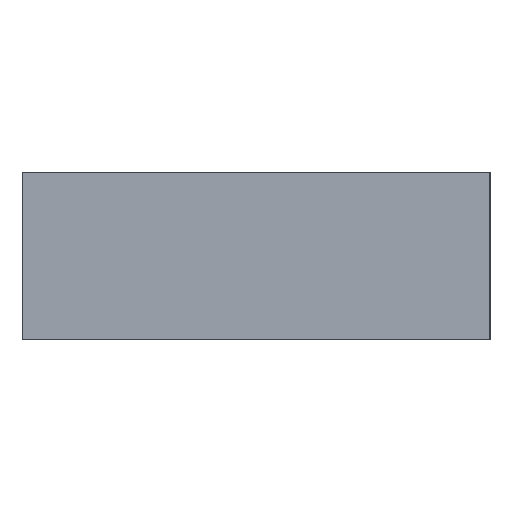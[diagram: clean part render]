
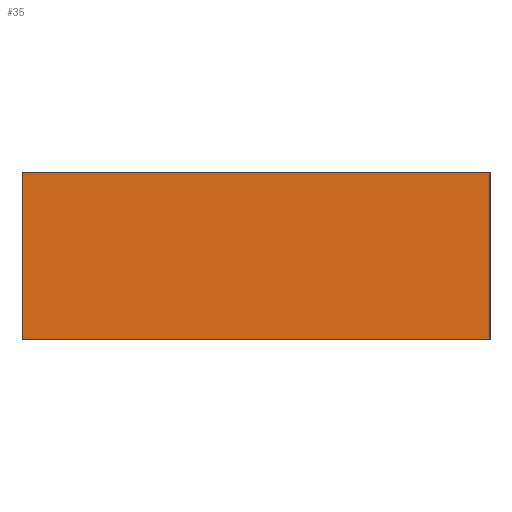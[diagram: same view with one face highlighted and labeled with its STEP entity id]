
A CAD part, left-side view. The second image highlights one B-rep face of the part: STEP entity #35.
In plain terms, the highlighted planar face has unit normal (-1, 0, 0).
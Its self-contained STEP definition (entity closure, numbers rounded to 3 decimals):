
#35 = ADVANCED_FACE('',(#36),#50,.F.);
#36 = FACE_BOUND('',#37,.F.);
#37 = EDGE_LOOP('',(#38,#73,#101,#129));
#38 = ORIENTED_EDGE('',*,*,#39,.F.);
#39 = EDGE_CURVE('',#40,#42,#44,.T.);
#40 = VERTEX_POINT('',#41);
#41 = CARTESIAN_POINT('',(139.,179.2,3.7));
#42 = VERTEX_POINT('',#43);
#43 = CARTESIAN_POINT('',(139.,179.2,13.2));
#44 = SURFACE_CURVE('',#45,(#49,#61),.PCURVE_S1.);
#45 = LINE('',#46,#47);
#46 = CARTESIAN_POINT('',(139.,179.2,3.7));
#47 = VECTOR('',#48,1.);
#48 = DIRECTION('',(0.,0.,1.));
#49 = PCURVE('',#50,#55);
#50 = PLANE('',#51);
#51 = AXIS2_PLACEMENT_3D('',#52,#53,#54);
#52 = CARTESIAN_POINT('',(139.,179.2,3.7));
#53 = DIRECTION('',(1.,0.,-0.));
#54 = DIRECTION('',(0.,0.,1.));
#55 = DEFINITIONAL_REPRESENTATION('',(#56),#60);
#56 = LINE('',#57,#58);
#57 = CARTESIAN_POINT('',(0.,0.));
#58 = VECTOR('',#59,1.);
#59 = DIRECTION('',(1.,0.));
#60 = ( GEOMETRIC_REPRESENTATION_CONTEXT(2) 
PARAMETRIC_REPRESENTATION_CONTEXT() REPRESENTATION_CONTEXT('2D SPACE',''
  ) );
#61 = PCURVE('',#62,#67);
#62 = PLANE('',#63);
#63 = AXIS2_PLACEMENT_3D('',#64,#65,#66);
#64 = CARTESIAN_POINT('',(139.,179.2,3.7));
#65 = DIRECTION('',(-0.,1.,0.));
#66 = DIRECTION('',(0.,0.,1.));
#67 = DEFINITIONAL_REPRESENTATION('',(#68),#72);
#68 = LINE('',#69,#70);
#69 = CARTESIAN_POINT('',(0.,0.));
#70 = VECTOR('',#71,1.);
#71 = DIRECTION('',(1.,0.));
#72 = ( GEOMETRIC_REPRESENTATION_CONTEXT(2) 
PARAMETRIC_REPRESENTATION_CONTEXT() REPRESENTATION_CONTEXT('2D SPACE',''
  ) );
#73 = ORIENTED_EDGE('',*,*,#74,.T.);
#74 = EDGE_CURVE('',#40,#75,#77,.T.);
#75 = VERTEX_POINT('',#76);
#76 = CARTESIAN_POINT('',(139.,182.6,3.7));
#77 = SURFACE_CURVE('',#78,(#82,#89),.PCURVE_S1.);
#78 = LINE('',#79,#80);
#79 = CARTESIAN_POINT('',(139.,179.2,3.7));
#80 = VECTOR('',#81,1.);
#81 = DIRECTION('',(-0.,1.,0.));
#82 = PCURVE('',#50,#83);
#83 = DEFINITIONAL_REPRESENTATION('',(#84),#88);
#84 = LINE('',#85,#86);
#85 = CARTESIAN_POINT('',(0.,0.));
#86 = VECTOR('',#87,1.);
#87 = DIRECTION('',(0.,-1.));
#88 = ( GEOMETRIC_REPRESENTATION_CONTEXT(2) 
PARAMETRIC_REPRESENTATION_CONTEXT() REPRESENTATION_CONTEXT('2D SPACE',''
  ) );
#89 = PCURVE('',#90,#95);
#90 = PLANE('',#91);
#91 = AXIS2_PLACEMENT_3D('',#92,#93,#94);
#92 = CARTESIAN_POINT('',(139.,179.2,3.7));
#93 = DIRECTION('',(0.,0.,1.));
#94 = DIRECTION('',(1.,0.,-0.));
#95 = DEFINITIONAL_REPRESENTATION('',(#96),#100);
#96 = LINE('',#97,#98);
#97 = CARTESIAN_POINT('',(0.,0.));
#98 = VECTOR('',#99,1.);
#99 = DIRECTION('',(0.,1.));
#100 = ( GEOMETRIC_REPRESENTATION_CONTEXT(2) 
PARAMETRIC_REPRESENTATION_CONTEXT() REPRESENTATION_CONTEXT('2D SPACE',''
  ) );
#101 = ORIENTED_EDGE('',*,*,#102,.T.);
#102 = EDGE_CURVE('',#75,#103,#105,.T.);
#103 = VERTEX_POINT('',#104);
#104 = CARTESIAN_POINT('',(139.,182.6,13.2));
#105 = SURFACE_CURVE('',#106,(#110,#117),.PCURVE_S1.);
#106 = LINE('',#107,#108);
#107 = CARTESIAN_POINT('',(139.,182.6,3.7));
#108 = VECTOR('',#109,1.);
#109 = DIRECTION('',(0.,0.,1.));
#110 = PCURVE('',#50,#111);
#111 = DEFINITIONAL_REPRESENTATION('',(#112),#116);
#112 = LINE('',#113,#114);
#113 = CARTESIAN_POINT('',(0.,-3.4));
#114 = VECTOR('',#115,1.);
#115 = DIRECTION('',(1.,0.));
#116 = ( GEOMETRIC_REPRESENTATION_CONTEXT(2) 
PARAMETRIC_REPRESENTATION_CONTEXT() REPRESENTATION_CONTEXT('2D SPACE',''
  ) );
#117 = PCURVE('',#118,#123);
#118 = PLANE('',#119);
#119 = AXIS2_PLACEMENT_3D('',#120,#121,#122);
#120 = CARTESIAN_POINT('',(139.,182.6,3.7));
#121 = DIRECTION('',(-0.,1.,0.));
#122 = DIRECTION('',(0.,0.,1.));
#123 = DEFINITIONAL_REPRESENTATION('',(#124),#128);
#124 = LINE('',#125,#126);
#125 = CARTESIAN_POINT('',(0.,0.));
#126 = VECTOR('',#127,1.);
#127 = DIRECTION('',(1.,0.));
#128 = ( GEOMETRIC_REPRESENTATION_CONTEXT(2) 
PARAMETRIC_REPRESENTATION_CONTEXT() REPRESENTATION_CONTEXT('2D SPACE',''
  ) );
#129 = ORIENTED_EDGE('',*,*,#130,.F.);
#130 = EDGE_CURVE('',#42,#103,#131,.T.);
#131 = SURFACE_CURVE('',#132,(#136,#143),.PCURVE_S1.);
#132 = LINE('',#133,#134);
#133 = CARTESIAN_POINT('',(139.,179.2,13.2));
#134 = VECTOR('',#135,1.);
#135 = DIRECTION('',(-0.,1.,0.));
#136 = PCURVE('',#50,#137);
#137 = DEFINITIONAL_REPRESENTATION('',(#138),#142);
#138 = LINE('',#139,#140);
#139 = CARTESIAN_POINT('',(9.5,0.));
#140 = VECTOR('',#141,1.);
#141 = DIRECTION('',(0.,-1.));
#142 = ( GEOMETRIC_REPRESENTATION_CONTEXT(2) 
PARAMETRIC_REPRESENTATION_CONTEXT() REPRESENTATION_CONTEXT('2D SPACE',''
  ) );
#143 = PCURVE('',#144,#149);
#144 = PLANE('',#145);
#145 = AXIS2_PLACEMENT_3D('',#146,#147,#148);
#146 = CARTESIAN_POINT('',(139.,179.2,13.2));
#147 = DIRECTION('',(0.,0.,1.));
#148 = DIRECTION('',(1.,0.,-0.));
#149 = DEFINITIONAL_REPRESENTATION('',(#150),#154);
#150 = LINE('',#151,#152);
#151 = CARTESIAN_POINT('',(0.,0.));
#152 = VECTOR('',#153,1.);
#153 = DIRECTION('',(0.,1.));
#154 = ( GEOMETRIC_REPRESENTATION_CONTEXT(2) 
PARAMETRIC_REPRESENTATION_CONTEXT() REPRESENTATION_CONTEXT('2D SPACE',''
  ) );
